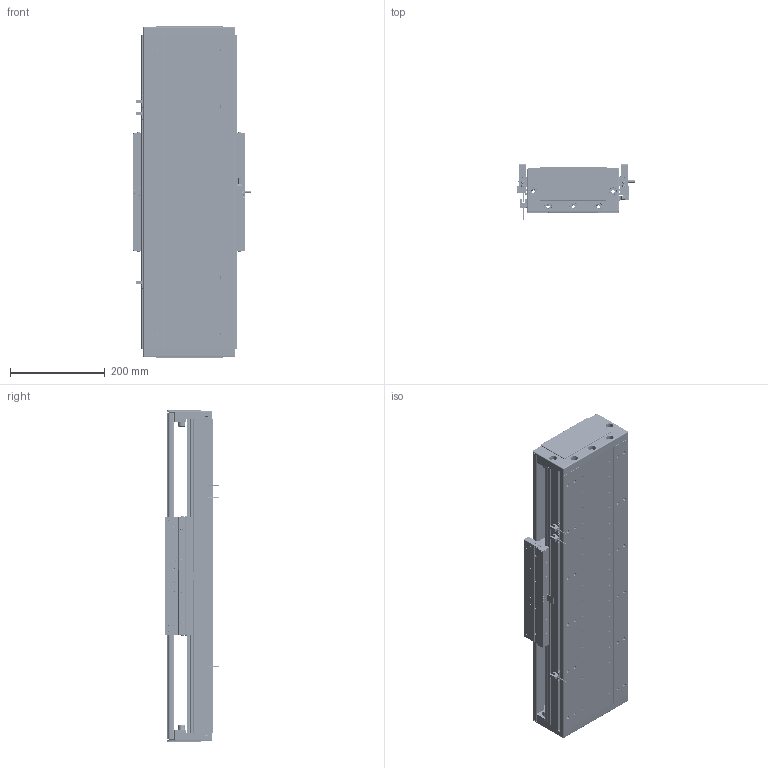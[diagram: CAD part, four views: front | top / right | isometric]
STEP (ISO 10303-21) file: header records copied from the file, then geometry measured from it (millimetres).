
FILE_DESCRIPTION (( 'STEP AP203' ), '1' );
FILE_NAME ('DA-C195-C3-T360-C010-0.2 眻盄萇儂.STEP', '2025-08-15T01:44:17', ( '' ), ( '' ), 'SwSTEP 2.0', 'SolidWorks 2019', '' );
FILE_SCHEMA (( 'CONFIG_CONTROL_DESIGN' ));
Length unit declared in the file: millimetre
Products named in the file (12): 葩璃 DA95-GT-T-00; DA195-DG-H-00  端盖（压铸镂空版）; 66156-0001-003-00 裔啣; PM-T45ㄗ侂狟ㄘ; DA-C195-C3-T360-C010-0.2 眻盄萇儂; IU-CU195-L-00 菁釱(L660); LMT黍杅芛; DA95-HXJ-00 遣喳砎蝶; IU-CU195-L 菁釱絳寢; DA165-GYP-00 光电感应片(默认); CU195-C3賑輸-俋楷; MS200 棠掑喜S315-T240
Assembly tree (20 placements, depth 3):
  DA-C195-C3-T360-C010-0.2 眻盄萇儂
    IU-CU195-L 菁釱絳寢
      IU-CU195-L-00 菁釱(L660)
      葩璃 DA95-GT-T-00  x4
    LMT黍杅芛
    MS200 棠掑喜S315-T240
    PM-T45ㄗ侂狟ㄘ  x3
    DA165-GYP-00 光电感应片(默认)
    DA195-DG-H-00  端盖（压铸镂空版）  x2
    DA95-HXJ-00 遣喳砎蝶  x4
    66156-0001-003-00 裔啣
    CU195-C3賑輸-俋楷
Bounding box: 248 x 115.6 x 700 mm (x, y, z)
Volume: 5889834 mm3; surface area: 1636487.8 mm2
Topology: 78 solids, 118 shells, 4997 faces, 12592 edges, 7619 vertices
Faces by surface type: cylinder 2072, plane 1591, bspline 710, cone 544, torus 44, sphere 36
Entity records: 133889 total; most frequent: CARTESIAN_POINT 40801, ORIENTED_EDGE 19270, DIRECTION 18798, EDGE_CURVE 9635, AXIS2_PLACEMENT_3D 6975, VERTEX_POINT 6049, VECTOR 4848, LINE 4848
